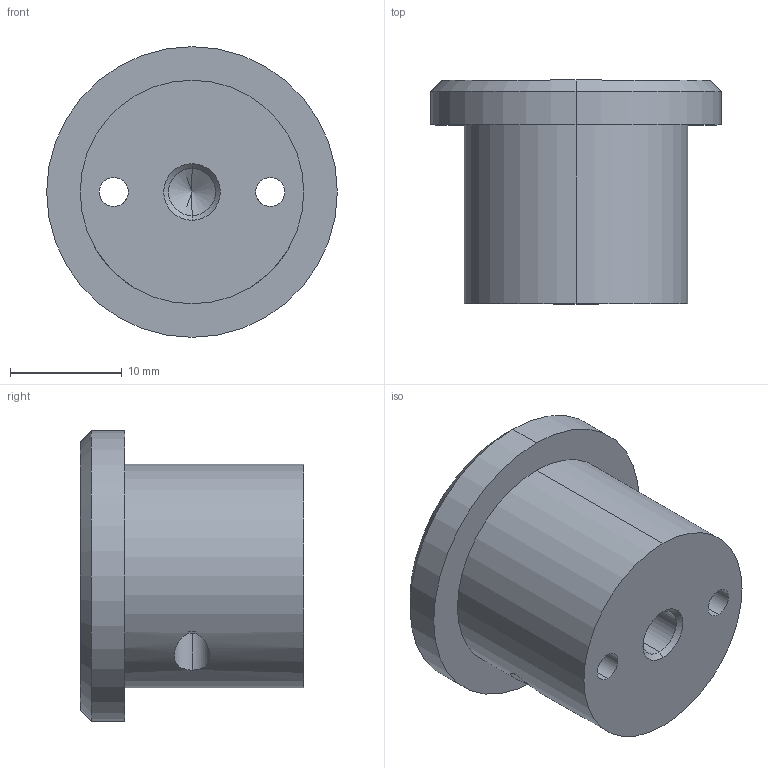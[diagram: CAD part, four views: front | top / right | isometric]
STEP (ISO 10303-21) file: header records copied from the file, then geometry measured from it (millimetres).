
FILE_DESCRIPTION (( 'STEP AP203' ), '1' );
FILE_NAME ('Elektrodenhalter_aussen.STEP', '2020-12-15T00:53:59', ( '' ), ( '' ), 'SwSTEP 2.0', 'SolidWorks 2017', '' );
FILE_SCHEMA (( 'CONFIG_CONTROL_DESIGN' ));
Length unit declared in the file: millimetre
Products named in the file (1): Elektrodenhalter_aussen
Bounding box: 26 x 20 x 26 mm (x, y, z)
Volume: 6569.9 mm3; surface area: 2959.7 mm2
Topology: 1 solids, 1 shells, 33 faces, 80 edges, 49 vertices
Faces by surface type: cylinder 18, cone 10, plane 5
Entity records: 1211 total; most frequent: CARTESIAN_POINT 347, DIRECTION 170, ORIENTED_EDGE 156, EDGE_CURVE 78, AXIS2_PLACEMENT_3D 70, VERTEX_POINT 49, EDGE_LOOP 43, CIRCLE 36
